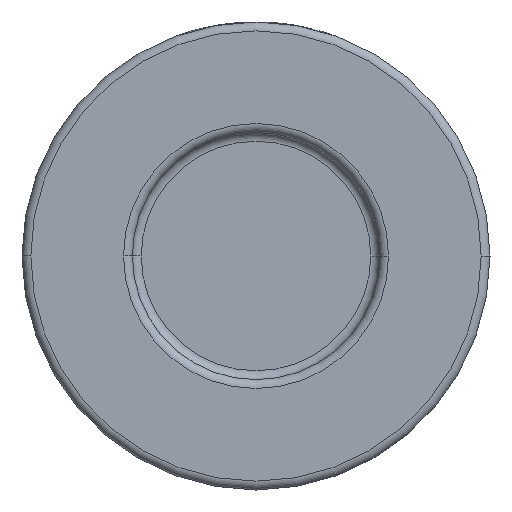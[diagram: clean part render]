
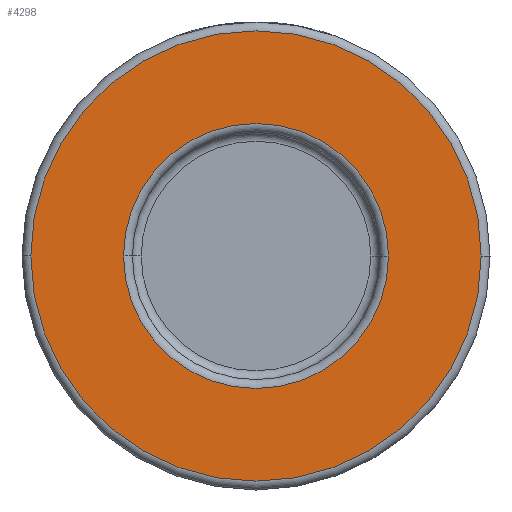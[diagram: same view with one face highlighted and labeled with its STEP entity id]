
A CAD part, front view. The second image highlights one B-rep face of the part: STEP entity #4298.
In plain terms, the highlighted planar face has unit normal (0, -1, 0).
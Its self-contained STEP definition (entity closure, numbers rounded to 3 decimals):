
#199 = CIRCLE ( 'NONE', #781, 15. ) ;
#319 = CARTESIAN_POINT ( 'NONE',  ( 25.5, -16., 0. ) ) ;
#401 = CIRCLE ( 'NONE', #2836, 25.5 ) ;
#469 = CARTESIAN_POINT ( 'NONE',  ( 0., -16., 0. ) ) ;
#593 = EDGE_LOOP ( 'NONE', ( #2313, #1033 ) ) ;
#765 = DIRECTION ( 'NONE',  ( 1., 0., 0. ) ) ;
#781 = AXIS2_PLACEMENT_3D ( 'NONE', #990, #2358, #3094 ) ;
#792 = FACE_OUTER_BOUND ( 'NONE', #1938, .T. ) ;
#847 = CIRCLE ( 'NONE', #3418, 15. ) ;
#990 = CARTESIAN_POINT ( 'NONE',  ( 0., -16., 0. ) ) ;
#1033 = ORIENTED_EDGE ( 'NONE', *, *, #2969, .T. ) ;
#1635 = ORIENTED_EDGE ( 'NONE', *, *, #2016, .T. ) ;
#1685 = AXIS2_PLACEMENT_3D ( 'NONE', #469, #2512, #3131 ) ;
#1766 = CARTESIAN_POINT ( 'NONE',  ( 0., -16., 0. ) ) ;
#1854 = ORIENTED_EDGE ( 'NONE', *, *, #2048, .T. ) ;
#1938 = EDGE_LOOP ( 'NONE', ( #1635, #1854 ) ) ;
#2016 = EDGE_CURVE ( 'NONE', #3679, #2711, #401, .T. ) ;
#2048 = EDGE_CURVE ( 'NONE', #2711, #3679, #3482, .T. ) ;
#2059 = AXIS2_PLACEMENT_3D ( 'NONE', #2177, #3864, #765 ) ;
#2083 = DIRECTION ( 'NONE',  ( 0., 1., 0. ) ) ;
#2177 = CARTESIAN_POINT ( 'NONE',  ( 26.5, -16., 0. ) ) ;
#2268 = CARTESIAN_POINT ( 'NONE',  ( 15., -16., 0. ) ) ;
#2313 = ORIENTED_EDGE ( 'NONE', *, *, #3687, .T. ) ;
#2358 = DIRECTION ( 'NONE',  ( 0., 1., 0. ) ) ;
#2512 = DIRECTION ( 'NONE',  ( 0., -1., 0. ) ) ;
#2657 = CARTESIAN_POINT ( 'NONE',  ( -15., -16., 0. ) ) ;
#2711 = VERTEX_POINT ( 'NONE', #2890 ) ;
#2836 = AXIS2_PLACEMENT_3D ( 'NONE', #1766, #4211, #3878 ) ;
#2890 = CARTESIAN_POINT ( 'NONE',  ( -25.5, -16., 0. ) ) ;
#2969 = EDGE_CURVE ( 'NONE', #3396, #3603, #847, .T. ) ;
#3094 = DIRECTION ( 'NONE',  ( 1., 0., 0. ) ) ;
#3131 = DIRECTION ( 'NONE',  ( 1., 0., 0. ) ) ;
#3396 = VERTEX_POINT ( 'NONE', #2657 ) ;
#3418 = AXIS2_PLACEMENT_3D ( 'NONE', #3453, #2083, #4197 ) ;
#3453 = CARTESIAN_POINT ( 'NONE',  ( 0., -16., 0. ) ) ;
#3482 = CIRCLE ( 'NONE', #1685, 25.5 ) ;
#3603 = VERTEX_POINT ( 'NONE', #2268 ) ;
#3679 = VERTEX_POINT ( 'NONE', #319 ) ;
#3687 = EDGE_CURVE ( 'NONE', #3603, #3396, #199, .T. ) ;
#3864 = DIRECTION ( 'NONE',  ( 0., -1., 0. ) ) ;
#3878 = DIRECTION ( 'NONE',  ( 1., 0., 0. ) ) ;
#3906 = PLANE ( 'NONE',  #2059 ) ;
#4197 = DIRECTION ( 'NONE',  ( 1., 0., 0. ) ) ;
#4211 = DIRECTION ( 'NONE',  ( 0., -1., 0. ) ) ;
#4219 = FACE_BOUND ( 'NONE', #593, .T. ) ;
#4298 = ADVANCED_FACE ( 'NONE', ( #4219, #792 ), #3906, .T. ) ;
